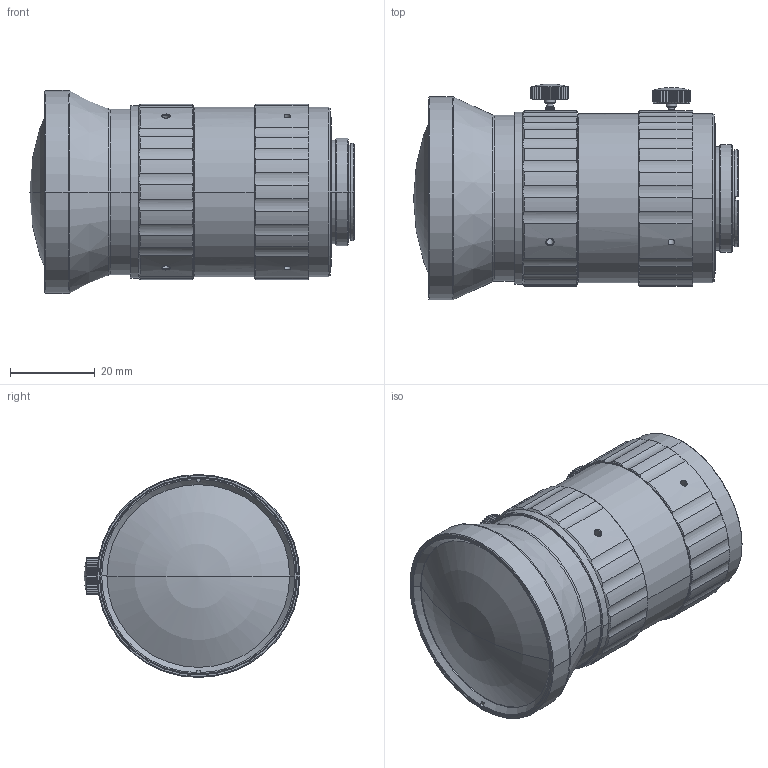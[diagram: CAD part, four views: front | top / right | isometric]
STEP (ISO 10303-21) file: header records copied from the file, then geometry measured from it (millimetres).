
FILE_DESCRIPTION((''),'2;1');
FILE_NAME('200_ASM_ASM','2020-03-16T',('Administrator'),(''),'PRO/ENGINEER BY PARAMETRIC TECHNOLOGY CORPORATION, 2010370','PRO/ENGINEER BY PARAMETRIC TECHNOLOGY CORPORATION, 2010370','');
FILE_SCHEMA(('CONFIG_CONTROL_DESIGN'));
Length unit declared in the file: millimetre
Products named in the file (19): MSBR-82; MSBR-81; MSBR-80; MSBR-79; MSBR-72; MSBR-71; MSBR-70; MSBR-69; MSBR-68; MSBR-67; MSBR-65; MSBR-64; MSBR-63; MSBR-62; MSBR-61; MSBR-48; MSBR-47; MSBR-40; 200_ASM_ASM
Assembly tree (18 placements, depth 2):
  200_ASM_ASM
    MSBR-82
    MSBR-81
    MSBR-80
    MSBR-79
    MSBR-72
    MSBR-71
    MSBR-70
    MSBR-69
    MSBR-68
    MSBR-67
    MSBR-65
    MSBR-64
    MSBR-63
    MSBR-62
    MSBR-61
    MSBR-48
    MSBR-47
    MSBR-40
Bounding box: 76.75 x 50.99 x 48 mm (x, y, z)
Volume: 36888 mm3; surface area: 37811.4 mm2
Topology: 18 solids, 18 shells, 997 faces, 2565 edges, 1617 vertices
Faces by surface type: cylinder 359, cone 284, plane 246, bspline 80, torus 16, sphere 12
Entity records: 41020 total; most frequent: CARTESIAN_POINT 16806, ORIENTED_EDGE 5074, DIRECTION 5042, EDGE_CURVE 2537, AXIS2_PLACEMENT_3D 2135, VERTEX_POINT 1619, CIRCLE 1185, EDGE_LOOP 1084
